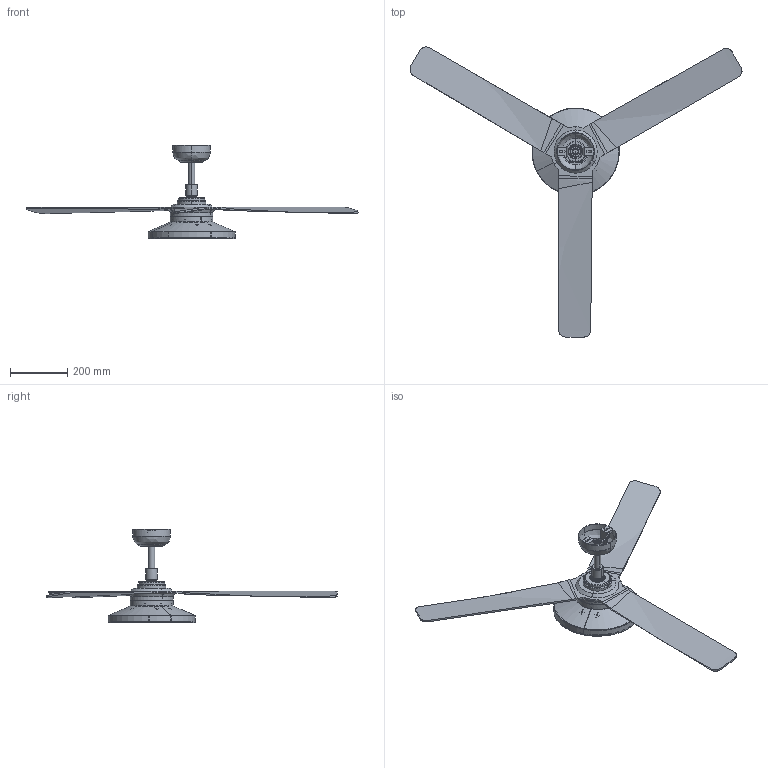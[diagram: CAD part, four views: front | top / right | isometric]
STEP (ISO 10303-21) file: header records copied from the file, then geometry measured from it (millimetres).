
FILE_DESCRIPTION(/* description */ (''),/* implementation_level */ '2;1');
FILE_NAME(/* name */ 'punt_tak_m_3d',/* time_stamp */ '2026-06-25T12:23:22+02:00',/* author */ (''),/* organization */ (''),/* preprocessor_version */ 'ST-DEVELOPER v19.2',/* originating_system */ 'Rhino 8.30',/* authorisation */ '');
FILE_SCHEMA (('CONFIG_CONTROL_DESIGN'));
Length unit declared in the file: millimetre
Products named in the file (1): Document
Bounding box: 1164.3 x 1017.62 x 327.59 mm (x, y, z)
Volume: 2308931.1 mm3; surface area: 1179839.1 mm2
Topology: 8 solids, 10 shells, 812 faces, 2155 edges, 1389 vertices
Faces by surface type: plane 411, cylinder 266, bspline 135
Entity records: 40557 total; most frequent: CARTESIAN_POINT 17401, ORIENTED_EDGE 4284, EDGE_CURVE 2155, DIRECTION 1721, B_SPLINE_CURVE_WITH_KNOTS 1588, VERTEX_POINT 1388, AXIS2_PLACEMENT_3D 1198, EDGE_LOOP 845
